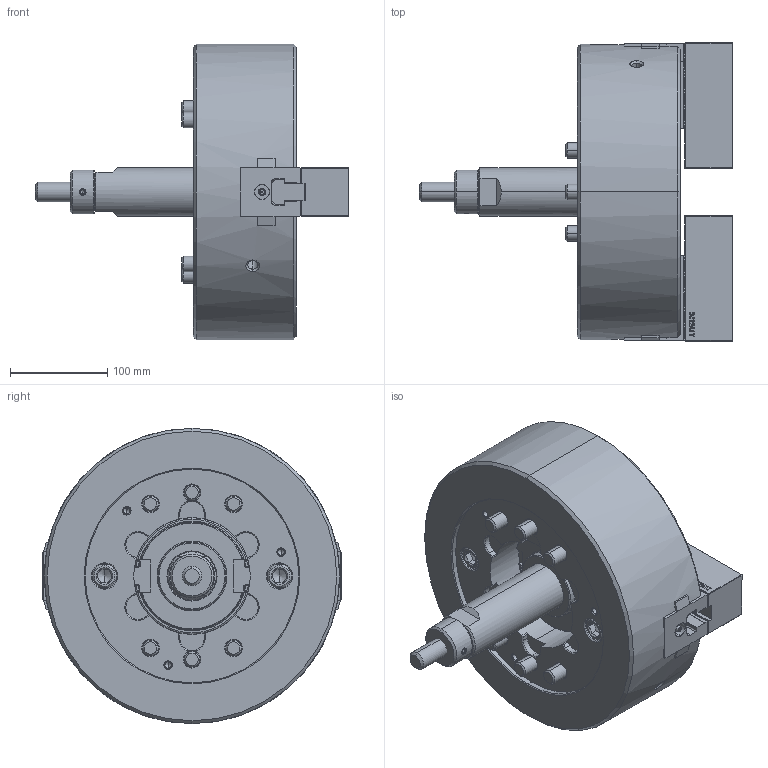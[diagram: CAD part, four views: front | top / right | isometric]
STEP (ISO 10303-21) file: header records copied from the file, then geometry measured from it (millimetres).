
FILE_DESCRIPTION (( 'STEP AP214' ), '1' );
FILE_NAME ('DT1_NLT12_OUTSIDE_VIEW_UC.STEP', '2026-03-23T07:18:55', ( '' ), ( '' ), 'SwSTEP 2.0', 'SolidWorks 2022', '' );
FILE_SCHEMA (( 'AUTOMOTIVE_DESIGN' ));
Length unit declared in the file: millimetre
Products named in the file (11): DT1_NLT12_BASE^DT1_NLT12; DT1_NLT12_OUTSIDE_VIEW_UC; DT1_NLT12_DRAWSCREW^DT1_NLT12; DT1_NLT12_TNUT^DT1_NLT12; DT1_NLT12_M5x12^DT1_NLT12; DT1_NLT12_M14x45^DT1_NLT12; Copy of 61P335750^DT1_NLT12; DT1_NLT12_COVER^DT1_NLT12; DT1_NLT12_DN^DT1_NLT12; DT1_NLT12_SOFTJAW^DT1_NLT12; DT1_NLT12_M16x100^DT1_NLT12
Assembly tree (23 placements, depth 2):
  DT1_NLT12_OUTSIDE_VIEW_UC
    DT1_NLT12_SOFTJAW^DT1_NLT12  x2
    DT1_NLT12_TNUT^DT1_NLT12  x2
    DT1_NLT12_COVER^DT1_NLT12
    DT1_NLT12_DRAWSCREW^DT1_NLT12
    Copy of 61P335750^DT1_NLT12
    DT1_NLT12_DN^DT1_NLT12
    DT1_NLT12_BASE^DT1_NLT12
    DT1_NLT12_M16x100^DT1_NLT12  x6
    DT1_NLT12_M14x45^DT1_NLT12  x4
    DT1_NLT12_M5x12^DT1_NLT12  x4
Bounding box: 323 x 306.9 x 304 mm (x, y, z)
Volume: 7769572.1 mm3; surface area: 622999.4 mm2
Topology: 23 solids, 23 shells, 4484 faces, 12771 edges, 8357 vertices
Faces by surface type: plane 2680, cylinder 1211, cone 385, bspline 157, torus 47, sphere 4
Entity records: 110490 total; most frequent: CARTESIAN_POINT 30572, ORIENTED_EDGE 18234, DIRECTION 14321, EDGE_CURVE 9117, VECTOR 6453, LINE 6453, VERTEX_POINT 5984, AXIS2_PLACEMENT_3D 3934
